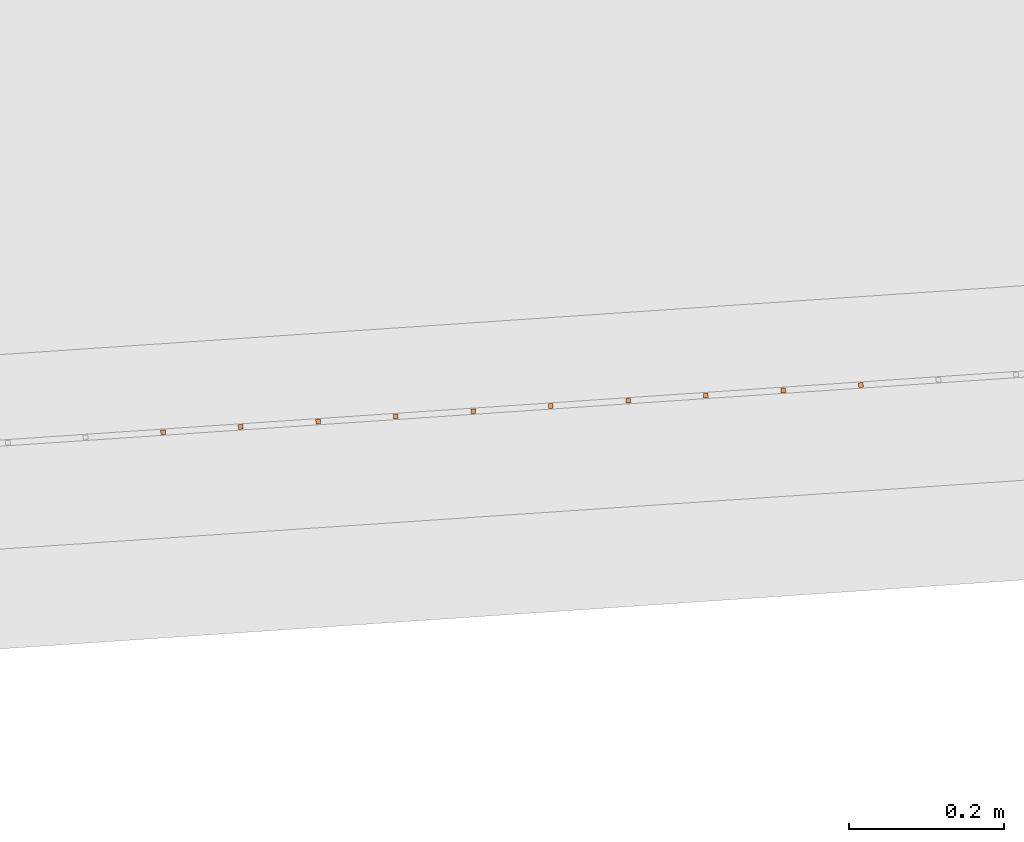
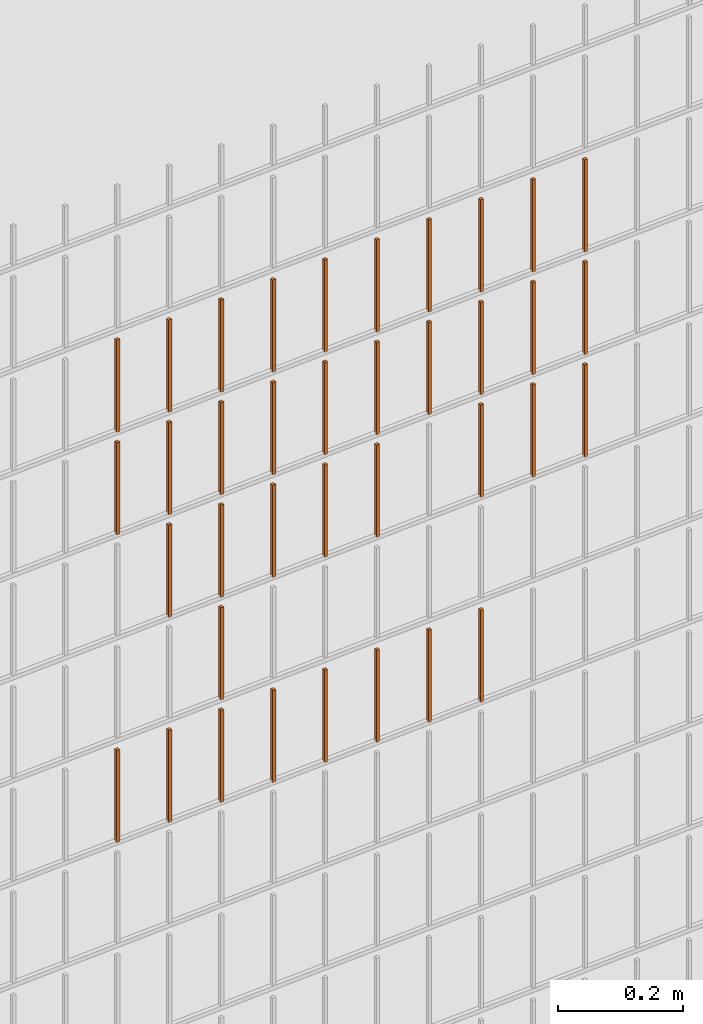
# One storey, part 149 of 1809: 37 proxies, 1 element without a shape of its own.
"""IFC2X3 building model written with IfcOpenShell, lengths in millimetres."""

import ifcopenshell
import ifcopenshell.guid

model = None  # the IFC model being written
_history = None  # IfcOwnerHistory: only IFC2X3 demands one
_inside = {}  # id of a spatial element -> (the spatial element, [elements in it])
_under = {}  # id of a project, library or spatial element -> (it, [spatial elements below it])
_declared = {}  # id of a project -> (the project, [libraries it declares])
_typed = {}  # id of a type object -> (the type object, [elements of that type])
_made_of = {}  # id of a material, layer set ... -> (it, [elements and type objects made of it])


def new_model(schema):
    """Start an empty IFC model of exactly this schema.

    Asked for "IFC4X3", IfcOpenShell would pick the latest addendum, in which some entities
    have other attributes; the version numbers below select the first issue.
    IFC2X3 requires an IfcOwnerHistory on every rooted entity: one is made here for all.
    """
    global model, _history
    if schema == "IFC4X3":
        model = ifcopenshell.file(schema_version=(4, 3, 0, 0))
    else:
        model = ifcopenshell.file(schema=schema)
    _inside.clear()
    _under.clear()
    _declared.clear()
    _typed.clear()
    _made_of.clear()
    _history = None
    if model.schema == "IFC2X3":
        org = make("IfcOrganization", Name="unknown")
        user = make(
            "IfcPersonAndOrganization",
            ThePerson=make("IfcPerson", FamilyName="unknown"),
            TheOrganization=org,
        )
        app = make(
            "IfcApplication",
            ApplicationDeveloper=org,
            Version="unknown",
            ApplicationFullName="unknown",
            ApplicationIdentifier="unknown",
        )
        _history = make(
            "IfcOwnerHistory",
            OwningUser=user,
            OwningApplication=app,
            ChangeAction="ADDED",
            CreationDate=0,
        )
    return model


def make(cls, **values):
    """One entity of the class cls with the attributes given. An attribute that is None is left unset."""
    return model.create_entity(
        cls, **{name: value for name, value in values.items() if value is not None}
    )


def entity(cls, *values):
    """Any entity or typed value of the class cls, its attributes in the order of the schema. None: left unset."""
    e = model.create_entity(cls)
    for i, value in enumerate(values):
        if value is not None:
            e[i] = value
    return e


def rooted(cls, **values):
    """An entity with a GlobalId (a new one), such as an element, a storey or a relation."""
    return make(cls, GlobalId=ifcopenshell.guid.new(), OwnerHistory=_history, **values)


def si_unit(unit_type, name, prefix=None):
    """IfcSIUnit, for example si_unit("LENGTHUNIT", "METRE", prefix="MILLI")."""
    return make("IfcSIUnit", UnitType=unit_type, Prefix=prefix, Name=name)


def converted_unit(unit_type, name, factor, base, dimensions=None, offset=None):
    """IfcConversionBasedUnit, such as the inch: factor (a typed value) times the base unit."""
    return make(
        "IfcConversionBasedUnit"
        if offset is None
        else "IfcConversionBasedUnitWithOffset",
        ConversionOffset=offset,
        Dimensions=None
        if dimensions is None
        else entity("IfcDimensionalExponents", *dimensions),
        UnitType=unit_type,
        Name=name,
        ConversionFactor=make(
            "IfcMeasureWithUnit", ValueComponent=factor, UnitComponent=base
        ),
    )


def derived_unit(unit_type, elements):
    """IfcDerivedUnit: a product of units, each with its exponent."""
    return make(
        "IfcDerivedUnit",
        Elements=[
            make("IfcDerivedUnitElement", Unit=unit, Exponent=power)
            for unit, power in elements
        ],
        UnitType=unit_type,
    )


def money_unit(currency):
    """IfcMonetaryUnit."""
    return make("IfcMonetaryUnit", Currency=currency)


def assignment(units):
    """IfcUnitAssignment: the units of a project."""
    return None if units is None else make("IfcUnitAssignment", Units=units)


def point(xyz):
    """IfcCartesianPoint."""
    return None if xyz is None else make("IfcCartesianPoint", Coordinates=xyz)


def direction(xyz):
    """IfcDirection."""
    return None if xyz is None else make("IfcDirection", DirectionRatios=xyz)


def frame(location, z_axis=None, x_axis=None):
    """IfcAxis2Placement3D, a coordinate frame: its origin and axes. An axis left out is left unset."""
    return make(
        "IfcAxis2Placement3D",
        Location=point(location),
        Axis=direction(z_axis),
        RefDirection=direction(x_axis),
    )


def origin_with_axes():
    """The frame at (0, 0, 0) with the z axis (0, 0, 1) and the x axis (1, 0, 0) written out."""
    return frame((0.0, 0.0, 0.0), z_axis=(0.0, 0.0, 1.0), x_axis=(1.0, 0.0, 0.0))


def place(relative_to, where):
    """IfcLocalPlacement: puts the frame where relative to a parent placement (None: the world)."""
    return make(
        "IfcLocalPlacement", PlacementRelTo=relative_to, RelativePlacement=where
    )


def context(
    kind, dimensions, precision=None, world=None, true_north=None, identifier=None
):
    """IfcGeometricRepresentationContext, for example the 3D "Model" context."""
    return make(
        "IfcGeometricRepresentationContext",
        ContextIdentifier=identifier,
        ContextType=kind,
        CoordinateSpaceDimension=dimensions,
        Precision=precision,
        WorldCoordinateSystem=world,
        TrueNorth=true_north,
    )


def subcontext(parent, identifier, kind, view, scale=None):
    """IfcGeometricRepresentationSubContext, for example "Body" below "Model"."""
    return make(
        "IfcGeometricRepresentationSubContext",
        ContextIdentifier=identifier,
        ContextType=kind,
        ParentContext=parent,
        TargetScale=scale,
        TargetView=view,
    )


def project(units=None, contexts=None):
    """IfcProject with its units and contexts."""
    return rooted(
        "IfcProject",
        Name="project",
        RepresentationContexts=contexts,
        UnitsInContext=assignment(units),
    )


def spatial(cls, under=None, at=None, **own):
    """A site, building, storey or space (cls), placed at a placement, below another one or the project."""
    s = rooted(cls, ObjectPlacement=at, **own)
    if under is not None:
        _under.setdefault(under.id(), (under, []))[1].append(s)
    return s


def faces_of(points, faces, orient=None, outer=None):
    """IfcFace entities. A face is a list of loops; a loop is a list of indices into points, from 0.

    orient and outer hold one flag for each loop. By default every Orientation is true, the
    first loop of a face is its IfcFaceOuterBound and the others are IfcFaceBound.
    """
    made = []
    for i, loops in enumerate(faces):
        bounds = []
        for j, loop in enumerate(loops):
            is_outer = j == 0 if outer is None else outer[i][j]
            bounds.append(
                make(
                    "IfcFaceOuterBound" if is_outer else "IfcFaceBound",
                    Bound=make("IfcPolyLoop", Polygon=[points[k] for k in loop]),
                    Orientation=True if orient is None else orient[i][j],
                )
            )
        made.append(make("IfcFace", Bounds=bounds))
    return made


def faceted_brep(points, faces, orient=None, outer=None, voids=None):
    """IfcFacetedBrep: a solid bounded by flat faces; with voids (closed shells), ...WithVoids."""
    shared = [point(p) for p in points]
    hull = make("IfcClosedShell", CfsFaces=faces_of(shared, faces, orient, outer))
    if voids is None:
        return make("IfcFacetedBrep", Outer=hull)
    return make(
        "IfcFacetedBrepWithVoids",
        Outer=hull,
        Voids=[
            make(cls, CfsFaces=faces_of(shared, fs, o, b)) for cls, fs, o, b in voids
        ],
    )


def shape(context_of_items, identifier, shape_type, items):
    """IfcShapeRepresentation: the items that make up one representation, for example the "Body"."""
    return make(
        "IfcShapeRepresentation",
        ContextOfItems=context_of_items,
        RepresentationIdentifier=identifier,
        RepresentationType=shape_type,
        Items=items,
    )


def source(mapping_origin, context_of_items, identifier, shape_type, items):
    """IfcRepresentationMap: a shape defined once, which mapped items show again and again."""
    return make(
        "IfcRepresentationMap",
        MappingOrigin=mapping_origin,
        MappedRepresentation=shape(context_of_items, identifier, shape_type, items),
    )


def transform(
    local_origin,
    x_axis=None,
    y_axis=None,
    z_axis=None,
    scale=None,
    scale2=None,
    scale3=None,
    uniform=True,
):
    """IfcCartesianTransformationOperator3D, or its non-uniform kind. x_axis, y_axis, z_axis: its Axis1, 2, 3."""
    if uniform:
        return make(
            "IfcCartesianTransformationOperator3D",
            Axis1=direction(x_axis),
            Axis2=direction(y_axis),
            LocalOrigin=point(local_origin),
            Scale=scale,
            Axis3=direction(z_axis),
        )
    return make(
        "IfcCartesianTransformationOperator3DnonUniform",
        Axis1=direction(x_axis),
        Axis2=direction(y_axis),
        LocalOrigin=point(local_origin),
        Scale=scale,
        Axis3=direction(z_axis),
        Scale2=scale2,
        Scale3=scale3,
    )


def mapped(mapping_source, mapping_target):
    """IfcMappedItem: shows the shape of a source again, moved by a transform."""
    return make(
        "IfcMappedItem", MappingSource=mapping_source, MappingTarget=mapping_target
    )


def material(Name=None, Category=None):
    """IfcMaterial."""
    return make("IfcMaterial", Name=Name, Category=Category)


def made_of(thing, what):
    """Note that an element or type object is made of a material, layer set ...; save() writes the relation."""
    if what is not None:
        _made_of.setdefault(what.id(), (what, []))[1].append(thing)
    return thing


def type_object(cls, material=None, **own):
    """A type object (cls), such as IfcWallType, which elements share."""
    return made_of(rooted(cls, **own), material)


def element(
    cls,
    number,
    at=None,
    inside=None,
    cuts=None,
    type_object=None,
    material=None,
    context=None,
    identifier="Body",
    shape_type=None,
    held_by="IfcProductDefinitionShape",
    body=None,
    shapes=None,
    **own,
):
    """One element of the class cls, such as IfcWall. Its Tag is "e" and its number.

    at: its placement. inside: the storey or other place that contains it. cuts: it is an
    opening in that element (IfcRelVoidsElement). A single representation is given by context,
    identifier, shape_type and body (its items); several are given by shapes. held_by: the class
    of the entity that holds the representations. save() writes the other relations.
    """
    e = rooted(cls, Tag="e%d" % number, ObjectPlacement=at, **own)
    if body is not None:
        shapes = [shape(context, identifier, shape_type, body)]
    if shapes is not None:
        e.Representation = make(held_by, Representations=shapes)
    if inside is not None:
        _inside.setdefault(inside.id(), (inside, []))[1].append(e)
    if cuts is not None:
        rooted(
            "IfcRelVoidsElement", RelatingBuildingElement=cuts, RelatedOpeningElement=e
        )
    if type_object is not None:
        _typed.setdefault(type_object.id(), (type_object, []))[1].append(e)
    return made_of(e, material)


def aggregate(whole, parts):
    """IfcRelAggregates: a whole, such as a stair, and the parts it consists of."""
    return rooted("IfcRelAggregates", RelatingObject=whole, RelatedObjects=parts)


def save(model, path):
    """Write the relations noted so far, then the file.

    IfcRelAggregates (storeys below a building ...), IfcRelContainedInSpatialStructure (elements
    in a storey), IfcRelDefinesByType, IfcRelAssociatesMaterial and IfcRelDeclares: one each for
    every whole, place, type object, material and project.
    """
    for whole, parts in _under.values():
        aggregate(whole, parts)
    for where, things in _inside.values():
        rooted(
            "IfcRelContainedInSpatialStructure",
            RelatedElements=things,
            RelatingStructure=where,
        )
    for kind, things in _typed.values():
        rooted("IfcRelDefinesByType", RelatedObjects=things, RelatingType=kind)
    for what, things in _made_of.values():
        rooted("IfcRelAssociatesMaterial", RelatedObjects=things, RelatingMaterial=what)
    for by, libraries in _declared.values():
        rooted("IfcRelDeclares", RelatingContext=by, RelatedDefinitions=libraries)
    model.write(path)


model = new_model("IFC2X3")

# Units and contexts
model_context = context("Model", 3, precision=0.01, world=origin_with_axes(), true_north=direction((0.0, 1.0)))
body_context = subcontext(model_context, "Body", "Model", "MODEL_VIEW")
ifc_project = project(units=[si_unit("LENGTHUNIT", "METRE", prefix="MILLI"), si_unit("AREAUNIT", "SQUARE_METRE"), si_unit("VOLUMEUNIT", "CUBIC_METRE"), converted_unit("PLANEANGLEUNIT", "DEGREE", entity("IfcPlaneAngleMeasure", 0.0174532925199), si_unit("PLANEANGLEUNIT", "RADIAN"), dimensions=[0, 0, 0, 0, 0, 0, 0]), si_unit("SOLIDANGLEUNIT", "STERADIAN"), money_unit("EUR"), converted_unit("TIMEUNIT", "Year", entity("IfcTimeMeasure", 31556926.0), si_unit("TIMEUNIT", "SECOND"), dimensions=[0, 0, 1, 0, 0, 0, 0]), si_unit("MASSUNIT", "GRAM", prefix="KILO"), si_unit("THERMODYNAMICTEMPERATUREUNIT", "DEGREE_CELSIUS"), si_unit("LUMINOUSINTENSITYUNIT", "LUMEN"), si_unit("ENERGYUNIT", "JOULE", prefix="MEGA"), derived_unit("THERMALCONDUCTANCEUNIT", [(si_unit("POWERUNIT", "WATT"), 1), (si_unit("LENGTHUNIT", "METRE"), -1), (si_unit("THERMODYNAMICTEMPERATUREUNIT", "KELVIN"), -1)]), derived_unit("SPECIFICHEATCAPACITYUNIT", [(si_unit("ENERGYUNIT", "JOULE"), 1), (si_unit("MASSUNIT", "GRAM", prefix="KILO"), -1), (si_unit("THERMODYNAMICTEMPERATUREUNIT", "KELVIN"), -1)]), derived_unit("MASSDENSITYUNIT", [(si_unit("MASSUNIT", "GRAM", prefix="KILO"), 1), (si_unit("VOLUMEUNIT", "CUBIC_METRE"), -1)])], contexts=[model_context])

# Site, building, storey
site_placement = place(None, origin_with_axes())
site = spatial("IfcSite", under=ifc_project, at=site_placement, Name="Politse- ja Piirivalveameti ning Päästeameti ühishoone", CompositionType="ELEMENT")
building_placement = place(site_placement, origin_with_axes())
building = spatial("IfcBuilding", under=site, at=building_placement, Name="Politse- ja Piirivalveameti ning Päästeameti ühishoone", CompositionType="ELEMENT")
storey_placement = place(building_placement, origin_with_axes())
storey = spatial("IfcBuildingStorey", under=building, at=storey_placement, Name="Esimene korrus", CompositionType="ELEMENT", Elevation=0.0)

# Proxies
building_element_proxy_type_1 = type_object("IfcBuildingElementProxyType", Name="Railing Type", PredefinedType="NOTDEFINED")
proxy_1_placement = place(storey_placement, frame((89252.001212, -29183.4766571, 203.661247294), z_axis=(0.0, 0.0, 1.0), x_axis=(1.0, 0.0, 0.0)))
proxy_1 = element("IfcBuildingElementProxy", 1, at=proxy_1_placement, inside=storey, type_object=building_element_proxy_type_1, Name="PIIRDEAED")
ifc_material = material(Name="ET-03_Raud")
building_element_proxy_type_2 = type_object("IfcBuildingElementProxyType", Name="IfcBuildingElementProxy", PredefinedType="NOTDEFINED")
shared_shape_1 = source(origin_with_axes(), body_context, "Body", "Brep", [
    faceted_brep([(3.0, 3.0, -0.000752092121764), (-3.0, 3.0, -0.000752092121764), (-3.0, 3.0, 179.99926046), (3.0, 3.0, 179.99926046), (3.0, -3.0, 0.000752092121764), (-3.0, -3.0, 0.000752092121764), (-3.0, -3.0, 180.000764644), (3.0, -3.0, 180.000764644)], [[[0, 1, 2, 3]], [[0, 4, 5, 1]], [[1, 5, 6, 2]], [[3, 2, 6, 7]], [[4, 0, 3, 7]], [[5, 4, 7, 6]]]),
])
proxy_2_placement = place(proxy_1_placement, frame((-83536.3378757, -22940.3391303, 806.244324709), z_axis=(0.0, 0.0, 1.0), x_axis=(1.0, 0.0, 0.0)))
proxy_2 = element("IfcBuildingElementProxy", 2, at=proxy_2_placement, type_object=building_element_proxy_type_2, material=ifc_material, Name="BALUSTER - 001", context=body_context, shape_type="MappedRepresentation", body=[
    mapped(shared_shape_1, transform((0.0, 0.0, 0.0), x_axis=(-0.0673926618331, 0.997726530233, 0.0), y_axis=(-0.997726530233, -0.0673926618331, 0.0), z_axis=(0.0, 0.0, 1.0))),
])
shared_shape_2 = source(origin_with_axes(), body_context, "Body", "Brep", [
    faceted_brep([(3.0, 3.0, -0.000752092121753), (-3.0, 3.0, -0.000752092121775), (-3.0, 3.0, 179.99926046), (3.0, 3.0, 179.99926046), (3.0, -3.0, 0.000752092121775), (-3.0, -3.0, 0.000752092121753), (-3.0, -3.0, 180.000764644), (3.0, -3.0, 180.000764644)], [[[0, 1, 2, 3]], [[0, 4, 5, 1]], [[1, 5, 6, 2]], [[3, 2, 6, 7]], [[4, 0, 3, 7]], [[5, 4, 7, 6]]]),
])
proxy_3_placement = place(proxy_1_placement, frame((-83436.5652227, -22933.5998642, 1206.26939445), z_axis=(0.0, 0.0, 1.0), x_axis=(1.0, 0.0, 0.0)))
proxy_3 = element("IfcBuildingElementProxy", 3, at=proxy_3_placement, type_object=building_element_proxy_type_2, material=ifc_material, Name="BALUSTER - 001", context=body_context, shape_type="MappedRepresentation", body=[
    mapped(shared_shape_2, transform((0.0, 0.0, 0.0), x_axis=(-0.0673926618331, 0.997726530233, 0.0), y_axis=(-0.997726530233, -0.0673926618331, 0.0), z_axis=(0.0, 0.0, 1.0))),
])
shared_shape_3 = source(origin_with_axes(), body_context, "Body", "Brep", [
    faceted_brep([(3.0, 3.0, -0.000752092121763), (-3.0, 3.0, -0.000752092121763), (-3.0, 3.0, 179.99926046), (3.0, 3.0, 179.99926046), (3.0, -3.0, 0.000752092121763), (-3.0, -3.0, 0.000752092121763), (-3.0, -3.0, 180.000764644), (3.0, -3.0, 180.000764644)], [[[0, 1, 2, 3]], [[0, 4, 5, 1]], [[1, 5, 6, 2]], [[3, 2, 6, 7]], [[4, 0, 3, 7]], [[5, 4, 7, 6]]]),
])
proxy_4_placement = place(proxy_1_placement, frame((-83636.1105287, -22947.0783965, 1206.21925497), z_axis=(0.0, 0.0, 1.0), x_axis=(1.0, 0.0, 0.0)))
proxy_4 = element("IfcBuildingElementProxy", 4, at=proxy_4_placement, type_object=building_element_proxy_type_2, material=ifc_material, Name="BALUSTER - 001", context=body_context, shape_type="MappedRepresentation", body=[
    mapped(shared_shape_3, transform((0.0, 0.0, 0.0), x_axis=(-0.0673926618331, 0.997726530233, 0.0), y_axis=(-0.997726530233, -0.0673926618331, 0.0), z_axis=(0.0, 0.0, 1.0))),
])
shared_shape_4 = source(origin_with_axes(), body_context, "Body", "Brep", [
    faceted_brep([(3.0, 3.0, -0.000752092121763), (-3.0, 3.0, -0.000752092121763), (-3.0, 3.0, 179.99926046), (3.0, 3.0, 179.99926046), (3.0, -3.0, 0.000752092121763), (-3.0, -3.0, 0.000752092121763), (-3.0, -3.0, 180.000764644), (3.0, -3.0, 180.000764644)], [[[0, 1, 2, 3]], [[0, 4, 5, 1]], [[1, 5, 6, 2]], [[3, 2, 6, 7]], [[4, 0, 3, 7]], [[5, 4, 7, 6]]]),
])
proxy_5_placement = place(proxy_1_placement, frame((-84134.9737938, -22980.7747274, 806.093906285), z_axis=(0.0, 0.0, 1.0), x_axis=(1.0, 0.0, 0.0)))
proxy_5 = element("IfcBuildingElementProxy", 5, at=proxy_5_placement, type_object=building_element_proxy_type_2, material=ifc_material, Name="BALUSTER - 001", context=body_context, shape_type="MappedRepresentation", body=[
    mapped(shared_shape_4, transform((0.0, 0.0, 0.0), x_axis=(-0.0673926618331, 0.997726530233, 0.0), y_axis=(-0.997726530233, -0.0673926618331, 0.0), z_axis=(0.0, 0.0, 1.0))),
])
shared_shape_5 = source(origin_with_axes(), body_context, "Body", "Brep", [
    faceted_brep([(3.0, 3.0, -0.000752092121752), (-3.0, 3.0, -0.000752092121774), (-3.0, 3.0, 179.99926046), (3.0, 3.0, 179.99926046), (3.0, -3.0, 0.000752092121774), (-3.0, -3.0, 0.000752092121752), (-3.0, -3.0, 180.000764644), (3.0, -3.0, 180.000764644)], [[[0, 1, 2, 3]], [[0, 4, 5, 1]], [[1, 5, 6, 2]], [[3, 2, 6, 7]], [[4, 0, 3, 7]], [[5, 4, 7, 6]]]),
])
proxy_6_placement = place(proxy_1_placement, frame((-83436.5652227, -22933.5998642, 806.269394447), z_axis=(0.0, 0.0, 1.0), x_axis=(1.0, 0.0, 0.0)))
proxy_6 = element("IfcBuildingElementProxy", 6, at=proxy_6_placement, type_object=building_element_proxy_type_2, material=ifc_material, Name="BALUSTER - 001", context=body_context, shape_type="MappedRepresentation", body=[
    mapped(shared_shape_5, transform((0.0, 0.0, 0.0), x_axis=(-0.0673926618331, 0.997726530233, 0.0), y_axis=(-0.997726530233, -0.0673926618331, 0.0), z_axis=(0.0, 0.0, 1.0))),
])
shared_shape_6 = source(origin_with_axes(), body_context, "Body", "Brep", [
    faceted_brep([(3.0, 3.0, -0.000752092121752), (-3.0, 3.0, -0.000752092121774), (-3.0, 3.0, 179.99926046), (3.0, 3.0, 179.99926046), (3.0, -3.0, 0.000752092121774), (-3.0, -3.0, 0.000752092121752), (-3.0, -3.0, 180.000764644), (3.0, -3.0, 180.000764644)], [[[0, 1, 2, 3]], [[0, 4, 5, 1]], [[1, 5, 6, 2]], [[3, 2, 6, 7]], [[4, 0, 3, 7]], [[5, 4, 7, 6]]]),
])
proxy_7_placement = place(proxy_1_placement, frame((-83636.1105287, -22947.0783965, 806.219254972), z_axis=(0.0, 0.0, 1.0), x_axis=(1.0, 0.0, 0.0)))
proxy_7 = element("IfcBuildingElementProxy", 7, at=proxy_7_placement, type_object=building_element_proxy_type_2, material=ifc_material, Name="BALUSTER - 001", context=body_context, shape_type="MappedRepresentation", body=[
    mapped(shared_shape_6, transform((0.0, 0.0, 0.0), x_axis=(-0.0673926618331, 0.997726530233, 0.0), y_axis=(-0.997726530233, -0.0673926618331, 0.0), z_axis=(0.0, 0.0, 1.0))),
])
proxy_8_placement = place(proxy_1_placement, frame((-83935.4284878, -22967.2961951, 806.14404576), z_axis=(0.0, 0.0, 1.0), x_axis=(1.0, 0.0, 0.0)))
proxy_8 = element("IfcBuildingElementProxy", 8, at=proxy_8_placement, type_object=building_element_proxy_type_2, material=ifc_material, Name="BALUSTER - 001", context=body_context, shape_type="MappedRepresentation", body=[
    mapped(shared_shape_6, transform((0.0, 0.0, 0.0), x_axis=(-0.0673926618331, 0.997726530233, 0.0), y_axis=(-0.997726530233, -0.0673926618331, 0.0), z_axis=(0.0, 0.0, 1.0))),
])
shared_shape_7 = source(origin_with_axes(), body_context, "Body", "Brep", [
    faceted_brep([(3.0, 3.0, -0.000752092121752), (-3.0, 3.0, -0.000752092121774), (-3.0, 3.0, 179.99926046), (3.0, 3.0, 179.99926046), (3.0, -3.0, 0.000752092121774), (-3.0, -3.0, 0.000752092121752), (-3.0, -3.0, 180.000764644), (3.0, -3.0, 180.000764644)], [[[0, 1, 2, 3]], [[0, 4, 5, 1]], [[1, 5, 6, 2]], [[3, 2, 6, 7]], [[4, 0, 3, 7]], [[5, 4, 7, 6]]]),
])
proxy_9_placement = place(proxy_1_placement, frame((-84035.2011408, -22974.0354613, 806.118976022), z_axis=(0.0, 0.0, 1.0), x_axis=(1.0, 0.0, 0.0)))
proxy_9 = element("IfcBuildingElementProxy", 9, at=proxy_9_placement, type_object=building_element_proxy_type_2, material=ifc_material, Name="BALUSTER - 001", context=body_context, shape_type="MappedRepresentation", body=[
    mapped(shared_shape_7, transform((0.0, 0.0, 0.0), x_axis=(-0.0673926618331, 0.997726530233, 0.0), y_axis=(-0.997726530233, -0.0673926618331, 0.0), z_axis=(0.0, 0.0, 1.0))),
])
proxy_10_placement = place(proxy_1_placement, frame((-83935.4284878, -22967.2961951, 1206.14404576), z_axis=(0.0, 0.0, 1.0), x_axis=(1.0, 0.0, 0.0)))
proxy_10 = element("IfcBuildingElementProxy", 10, at=proxy_10_placement, type_object=building_element_proxy_type_2, material=ifc_material, Name="BALUSTER - 001", context=body_context, shape_type="MappedRepresentation", body=[
    mapped(shared_shape_7, transform((0.0, 0.0, 0.0), x_axis=(-0.0673926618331, 0.997726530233, 0.0), y_axis=(-0.997726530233, -0.0673926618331, 0.0), z_axis=(0.0, 0.0, 1.0))),
])
shared_shape_8 = source(origin_with_axes(), body_context, "Body", "Brep", [
    faceted_brep([(3.0, 3.0, -0.000752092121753), (-3.0, 3.0, -0.000752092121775), (-3.0, 3.0, 179.99926046), (3.0, 3.0, 179.99926046), (3.0, -3.0, 0.000752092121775), (-3.0, -3.0, 0.000752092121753), (-3.0, -3.0, 180.000764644), (3.0, -3.0, 180.000764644)], [[[0, 1, 2, 3]], [[0, 4, 5, 1]], [[1, 5, 6, 2]], [[3, 2, 6, 7]], [[4, 0, 3, 7]], [[5, 4, 7, 6]]]),
])
proxy_11_placement = place(proxy_1_placement, frame((-83436.5652227, -22933.5998642, 1406.26939445), z_axis=(0.0, 0.0, 1.0), x_axis=(1.0, 0.0, 0.0)))
proxy_11 = element("IfcBuildingElementProxy", 11, at=proxy_11_placement, type_object=building_element_proxy_type_2, material=ifc_material, Name="BALUSTER - 001", context=body_context, shape_type="MappedRepresentation", body=[
    mapped(shared_shape_8, transform((0.0, 0.0, 0.0), x_axis=(-0.0673926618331, 0.997726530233, 0.0), y_axis=(-0.997726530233, -0.0673926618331, 0.0), z_axis=(0.0, 0.0, 1.0))),
])
proxy_12_placement = place(proxy_1_placement, frame((-83436.5652227, -22933.5998642, 1606.26939445), z_axis=(0.0, 0.0, 1.0), x_axis=(1.0, 0.0, 0.0)))
proxy_12 = element("IfcBuildingElementProxy", 12, at=proxy_12_placement, type_object=building_element_proxy_type_2, material=ifc_material, Name="BALUSTER - 001", context=body_context, shape_type="MappedRepresentation", body=[
    mapped(shared_shape_8, transform((0.0, 0.0, 0.0), x_axis=(-0.0673926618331, 0.997726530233, 0.0), y_axis=(-0.997726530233, -0.0673926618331, 0.0), z_axis=(0.0, 0.0, 1.0))),
])
shared_shape_9 = source(origin_with_axes(), body_context, "Body", "Brep", [
    faceted_brep([(3.0, 3.0, -0.000752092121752), (-3.0, 3.0, -0.000752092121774), (-3.0, 3.0, 179.99926046), (3.0, 3.0, 179.99926046), (3.0, -3.0, 0.000752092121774), (-3.0, -3.0, 0.000752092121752), (-3.0, -3.0, 180.000764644), (3.0, -3.0, 180.000764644)], [[[0, 1, 2, 3]], [[0, 4, 5, 1]], [[1, 5, 6, 2]], [[3, 2, 6, 7]], [[4, 0, 3, 7]], [[5, 4, 7, 6]]]),
])
proxy_13_placement = place(proxy_1_placement, frame((-83935.4284878, -22967.2961951, 1406.14404576), z_axis=(0.0, 0.0, 1.0), x_axis=(1.0, 0.0, 0.0)))
proxy_13 = element("IfcBuildingElementProxy", 13, at=proxy_13_placement, type_object=building_element_proxy_type_2, material=ifc_material, Name="BALUSTER - 001", context=body_context, shape_type="MappedRepresentation", body=[
    mapped(shared_shape_9, transform((0.0, 0.0, 0.0), x_axis=(-0.0673926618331, 0.997726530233, 0.0), y_axis=(-0.997726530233, -0.0673926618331, 0.0), z_axis=(0.0, 0.0, 1.0))),
])
proxy_14_placement = place(proxy_1_placement, frame((-83935.4284878, -22967.2961951, 1606.14404576), z_axis=(0.0, 0.0, 1.0), x_axis=(1.0, 0.0, 0.0)))
proxy_14 = element("IfcBuildingElementProxy", 14, at=proxy_14_placement, type_object=building_element_proxy_type_2, material=ifc_material, Name="BALUSTER - 001", context=body_context, shape_type="MappedRepresentation", body=[
    mapped(shared_shape_9, transform((0.0, 0.0, 0.0), x_axis=(-0.0673926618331, 0.997726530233, 0.0), y_axis=(-0.997726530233, -0.0673926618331, 0.0), z_axis=(0.0, 0.0, 1.0))),
])
shared_shape_10 = source(origin_with_axes(), body_context, "Body", "Brep", [
    faceted_brep([(3.0, 3.0, -0.000752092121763), (-3.0, 3.0, -0.000752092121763), (-3.0, 3.0, 179.99926046), (3.0, 3.0, 179.99926046), (3.0, -3.0, 0.000752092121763), (-3.0, -3.0, 0.000752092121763), (-3.0, -3.0, 180.000764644), (3.0, -3.0, 180.000764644)], [[[0, 1, 2, 3]], [[0, 4, 5, 1]], [[1, 5, 6, 2]], [[3, 2, 6, 7]], [[4, 0, 3, 7]], [[5, 4, 7, 6]]]),
])
proxy_15_placement = place(proxy_1_placement, frame((-83735.8831817, -22953.8176627, 1206.19418523), z_axis=(0.0, 0.0, 1.0), x_axis=(1.0, 0.0, 0.0)))
proxy_15 = element("IfcBuildingElementProxy", 15, at=proxy_15_placement, type_object=building_element_proxy_type_2, material=ifc_material, Name="BALUSTER - 001", context=body_context, shape_type="MappedRepresentation", body=[
    mapped(shared_shape_10, transform((0.0, 0.0, 0.0), x_axis=(-0.0673926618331, 0.997726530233, 0.0), y_axis=(-0.997726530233, -0.0673926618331, 0.0), z_axis=(0.0, 0.0, 1.0))),
])
shared_shape_11 = source(origin_with_axes(), body_context, "Body", "Brep", [
    faceted_brep([(3.0, 3.0, -0.000752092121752), (-3.0, 3.0, -0.000752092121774), (-3.0, 3.0, 179.99926046), (3.0, 3.0, 179.99926046), (3.0, -3.0, 0.000752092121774), (-3.0, -3.0, 0.000752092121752), (-3.0, -3.0, 180.000764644), (3.0, -3.0, 180.000764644)], [[[0, 1, 2, 3]], [[0, 4, 5, 1]], [[1, 5, 6, 2]], [[3, 2, 6, 7]], [[4, 0, 3, 7]], [[5, 4, 7, 6]]]),
])
proxy_16_placement = place(proxy_1_placement, frame((-83735.8831817, -22953.8176627, 806.194185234), z_axis=(0.0, 0.0, 1.0), x_axis=(1.0, 0.0, 0.0)))
proxy_16 = element("IfcBuildingElementProxy", 16, at=proxy_16_placement, type_object=building_element_proxy_type_2, material=ifc_material, Name="BALUSTER - 001", context=body_context, shape_type="MappedRepresentation", body=[
    mapped(shared_shape_11, transform((0.0, 0.0, 0.0), x_axis=(-0.0673926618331, 0.997726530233, 0.0), y_axis=(-0.997726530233, -0.0673926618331, 0.0), z_axis=(0.0, 0.0, 1.0))),
])
proxy_17_placement = place(proxy_1_placement, frame((-83835.6558348, -22960.5569289, 806.169115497), z_axis=(0.0, 0.0, 1.0), x_axis=(1.0, 0.0, 0.0)))
proxy_17 = element("IfcBuildingElementProxy", 17, at=proxy_17_placement, type_object=building_element_proxy_type_2, material=ifc_material, Name="BALUSTER - 001", context=body_context, shape_type="MappedRepresentation", body=[
    mapped(shared_shape_11, transform((0.0, 0.0, 0.0), x_axis=(-0.0673926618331, 0.997726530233, 0.0), y_axis=(-0.997726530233, -0.0673926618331, 0.0), z_axis=(0.0, 0.0, 1.0))),
])
proxy_18_placement = place(proxy_1_placement, frame((-83835.6558348, -22960.5569289, 1206.1691155), z_axis=(0.0, 0.0, 1.0), x_axis=(1.0, 0.0, 0.0)))
proxy_18 = element("IfcBuildingElementProxy", 18, at=proxy_18_placement, type_object=building_element_proxy_type_2, material=ifc_material, Name="BALUSTER - 001", context=body_context, shape_type="MappedRepresentation", body=[
    mapped(shared_shape_11, transform((0.0, 0.0, 0.0), x_axis=(-0.0673926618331, 0.997726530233, 0.0), y_axis=(-0.997726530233, -0.0673926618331, 0.0), z_axis=(0.0, 0.0, 1.0))),
])
shared_shape_12 = source(origin_with_axes(), body_context, "Body", "Brep", [
    faceted_brep([(3.0, 3.0, -0.000752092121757), (-3.0, 3.0, -0.000752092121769), (-3.00000000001, 3.0, 179.99926046), (2.99999999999, 3.0, 179.99926046), (3.0, -3.0, 0.000752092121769), (-3.0, -3.0, 0.000752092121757), (-3.00000000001, -3.0, 180.000764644), (2.99999999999, -3.0, 180.000764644)], [[[0, 1, 2, 3]], [[0, 4, 5, 1]], [[1, 5, 6, 2]], [[3, 2, 6, 7]], [[4, 0, 3, 7]], [[5, 4, 7, 6]]]),
])
proxy_19_placement = place(proxy_1_placement, frame((-83935.4284878, -22967.2961951, 1006.14404576), z_axis=(0.0, 0.0, 1.0), x_axis=(1.0, 0.0, 0.0)))
proxy_19 = element("IfcBuildingElementProxy", 19, at=proxy_19_placement, type_object=building_element_proxy_type_2, material=ifc_material, Name="BALUSTER - 001", context=body_context, shape_type="MappedRepresentation", body=[
    mapped(shared_shape_12, transform((0.0, 0.0, 0.0), x_axis=(-0.0673926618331, 0.997726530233, 0.0), y_axis=(-0.997726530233, -0.0673926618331, 0.0), z_axis=(0.0, 0.0, 1.0))),
])
shared_shape_13 = source(origin_with_axes(), body_context, "Body", "Brep", [
    faceted_brep([(3.0, 3.0, -0.000752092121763), (-3.0, 3.0, -0.000752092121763), (-3.0, 3.0, 179.99926046), (3.0, 3.0, 179.99926046), (3.0, -3.0, 0.000752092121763), (-3.0, -3.0, 0.000752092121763), (-3.0, -3.0, 180.000764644), (3.0, -3.0, 180.000764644)], [[[0, 1, 2, 3]], [[0, 4, 5, 1]], [[1, 5, 6, 2]], [[3, 2, 6, 7]], [[4, 0, 3, 7]], [[5, 4, 7, 6]]]),
])
proxy_20_placement = place(proxy_1_placement, frame((-83237.0199166, -22920.1213318, 1206.31953392), z_axis=(0.0, 0.0, 1.0), x_axis=(1.0, 0.0, 0.0)))
proxy_20 = element("IfcBuildingElementProxy", 20, at=proxy_20_placement, type_object=building_element_proxy_type_2, material=ifc_material, Name="BALUSTER - 001", context=body_context, shape_type="MappedRepresentation", body=[
    mapped(shared_shape_13, transform((0.0, 0.0, 0.0), x_axis=(-0.0673926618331, 0.997726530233, 0.0), y_axis=(-0.997726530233, -0.0673926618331, 0.0), z_axis=(0.0, 0.0, 1.0))),
])
proxy_21_placement = place(proxy_1_placement, frame((-84035.2011408, -22974.0354613, 1206.11897602), z_axis=(0.0, 0.0, 1.0), x_axis=(1.0, 0.0, 0.0)))
proxy_21 = element("IfcBuildingElementProxy", 21, at=proxy_21_placement, type_object=building_element_proxy_type_2, material=ifc_material, Name="BALUSTER - 001", context=body_context, shape_type="MappedRepresentation", body=[
    mapped(shared_shape_13, transform((0.0, 0.0, 0.0), x_axis=(-0.0673926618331, 0.997726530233, 0.0), y_axis=(-0.997726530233, -0.0673926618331, 0.0), z_axis=(0.0, 0.0, 1.0))),
])
shared_shape_14 = source(origin_with_axes(), body_context, "Body", "Brep", [
    faceted_brep([(3.0, 3.0, -0.000752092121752), (-3.0, 3.0, -0.000752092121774), (-3.0, 3.0, 179.99926046), (3.0, 3.0, 179.99926046), (3.0, -3.0, 0.000752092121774), (-3.0, -3.0, 0.000752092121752), (-3.0, -3.0, 180.000764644), (3.0, -3.0, 180.000764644)], [[[0, 1, 2, 3]], [[0, 4, 5, 1]], [[1, 5, 6, 2]], [[3, 2, 6, 7]], [[4, 0, 3, 7]], [[5, 4, 7, 6]]]),
])
proxy_22_placement = place(proxy_1_placement, frame((-83336.7925696, -22926.860598, 1206.29446418), z_axis=(0.0, 0.0, 1.0), x_axis=(1.0, 0.0, 0.0)))
proxy_22 = element("IfcBuildingElementProxy", 22, at=proxy_22_placement, type_object=building_element_proxy_type_2, material=ifc_material, Name="BALUSTER - 001", context=body_context, shape_type="MappedRepresentation", body=[
    mapped(shared_shape_14, transform((0.0, 0.0, 0.0), x_axis=(-0.0673926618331, 0.997726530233, 0.0), y_axis=(-0.997726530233, -0.0673926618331, 0.0), z_axis=(0.0, 0.0, 1.0))),
])
shared_shape_15 = source(origin_with_axes(), body_context, "Body", "Brep", [
    faceted_brep([(3.0, 3.0, -0.000752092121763), (-3.0, 3.0, -0.000752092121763), (-3.0, 3.0, 179.99926046), (3.0, 3.0, 179.99926046), (3.0, -3.0, 0.000752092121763), (-3.0, -3.0, 0.000752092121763), (-3.0, -3.0, 180.000764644), (3.0, -3.0, 180.000764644)], [[[0, 1, 2, 3]], [[0, 4, 5, 1]], [[1, 5, 6, 2]], [[3, 2, 6, 7]], [[4, 0, 3, 7]], [[5, 4, 7, 6]]]),
])
proxy_23_placement = place(proxy_1_placement, frame((-83237.0199166, -22920.1213318, 1406.31953392), z_axis=(0.0, 0.0, 1.0), x_axis=(1.0, 0.0, 0.0)))
proxy_23 = element("IfcBuildingElementProxy", 23, at=proxy_23_placement, type_object=building_element_proxy_type_2, material=ifc_material, Name="BALUSTER - 001", context=body_context, shape_type="MappedRepresentation", body=[
    mapped(shared_shape_15, transform((0.0, 0.0, 0.0), x_axis=(-0.0673926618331, 0.997726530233, 0.0), y_axis=(-0.997726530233, -0.0673926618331, 0.0), z_axis=(0.0, 0.0, 1.0))),
])
proxy_24_placement = place(proxy_1_placement, frame((-83237.0199166, -22920.1213318, 1606.31953392), z_axis=(0.0, 0.0, 1.0), x_axis=(1.0, 0.0, 0.0)))
proxy_24 = element("IfcBuildingElementProxy", 24, at=proxy_24_placement, type_object=building_element_proxy_type_2, material=ifc_material, Name="BALUSTER - 001", context=body_context, shape_type="MappedRepresentation", body=[
    mapped(shared_shape_15, transform((0.0, 0.0, 0.0), x_axis=(-0.0673926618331, 0.997726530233, 0.0), y_axis=(-0.997726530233, -0.0673926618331, 0.0), z_axis=(0.0, 0.0, 1.0))),
])
shared_shape_16 = source(origin_with_axes(), body_context, "Body", "Brep", [
    faceted_brep([(3.0, 3.0, -0.000752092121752), (-3.0, 3.0, -0.000752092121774), (-3.0, 3.0, 179.99926046), (3.0, 3.0, 179.99926046), (3.0, -3.0, 0.000752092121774), (-3.0, -3.0, 0.000752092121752), (-3.0, -3.0, 180.000764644), (3.0, -3.0, 180.000764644)], [[[0, 1, 2, 3]], [[0, 4, 5, 1]], [[1, 5, 6, 2]], [[3, 2, 6, 7]], [[4, 0, 3, 7]], [[5, 4, 7, 6]]]),
])
proxy_25_placement = place(proxy_1_placement, frame((-83336.7925696, -22926.860598, 1406.29446418), z_axis=(0.0, 0.0, 1.0), x_axis=(1.0, 0.0, 0.0)))
proxy_25 = element("IfcBuildingElementProxy", 25, at=proxy_25_placement, type_object=building_element_proxy_type_2, material=ifc_material, Name="BALUSTER - 001", context=body_context, shape_type="MappedRepresentation", body=[
    mapped(shared_shape_16, transform((0.0, 0.0, 0.0), x_axis=(-0.0673926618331, 0.997726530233, 0.0), y_axis=(-0.997726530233, -0.0673926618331, 0.0), z_axis=(0.0, 0.0, 1.0))),
])
proxy_26_placement = place(proxy_1_placement, frame((-83336.7925696, -22926.860598, 1606.29446418), z_axis=(0.0, 0.0, 1.0), x_axis=(1.0, 0.0, 0.0)))
proxy_26 = element("IfcBuildingElementProxy", 26, at=proxy_26_placement, type_object=building_element_proxy_type_2, material=ifc_material, Name="BALUSTER - 001", context=body_context, shape_type="MappedRepresentation", body=[
    mapped(shared_shape_16, transform((0.0, 0.0, 0.0), x_axis=(-0.0673926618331, 0.997726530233, 0.0), y_axis=(-0.997726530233, -0.0673926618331, 0.0), z_axis=(0.0, 0.0, 1.0))),
])
shared_shape_17 = source(origin_with_axes(), body_context, "Body", "Brep", [
    faceted_brep([(3.0, 3.0, -0.000752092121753), (-3.0, 3.0, -0.000752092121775), (-3.0, 3.0, 179.99926046), (3.0, 3.0, 179.99926046), (3.0, -3.0, 0.000752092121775), (-3.0, -3.0, 0.000752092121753), (-3.0, -3.0, 180.000764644), (3.0, -3.0, 180.000764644)], [[[0, 1, 2, 3]], [[0, 4, 5, 1]], [[1, 5, 6, 2]], [[3, 2, 6, 7]], [[4, 0, 3, 7]], [[5, 4, 7, 6]]]),
])
proxy_27_placement = place(proxy_1_placement, frame((-83536.3378757, -22940.3391303, 1406.24432471), z_axis=(0.0, 0.0, 1.0), x_axis=(1.0, 0.0, 0.0)))
proxy_27 = element("IfcBuildingElementProxy", 27, at=proxy_27_placement, type_object=building_element_proxy_type_2, material=ifc_material, Name="BALUSTER - 001", context=body_context, shape_type="MappedRepresentation", body=[
    mapped(shared_shape_17, transform((0.0, 0.0, 0.0), x_axis=(-0.0673926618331, 0.997726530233, 0.0), y_axis=(-0.997726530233, -0.0673926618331, 0.0), z_axis=(0.0, 0.0, 1.0))),
])
proxy_28_placement = place(proxy_1_placement, frame((-83536.3378757, -22940.3391303, 1606.24432471), z_axis=(0.0, 0.0, 1.0), x_axis=(1.0, 0.0, 0.0)))
proxy_28 = element("IfcBuildingElementProxy", 28, at=proxy_28_placement, type_object=building_element_proxy_type_2, material=ifc_material, Name="BALUSTER - 001", context=body_context, shape_type="MappedRepresentation", body=[
    mapped(shared_shape_17, transform((0.0, 0.0, 0.0), x_axis=(-0.0673926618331, 0.997726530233, 0.0), y_axis=(-0.997726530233, -0.0673926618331, 0.0), z_axis=(0.0, 0.0, 1.0))),
])
shared_shape_18 = source(origin_with_axes(), body_context, "Body", "Brep", [
    faceted_brep([(3.0, 3.0, -0.000752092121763), (-3.0, 3.0, -0.000752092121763), (-3.0, 3.0, 179.99926046), (3.0, 3.0, 179.99926046), (3.0, -3.0, 0.000752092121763), (-3.0, -3.0, 0.000752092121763), (-3.0, -3.0, 180.000764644), (3.0, -3.0, 180.000764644)], [[[0, 1, 2, 3]], [[0, 4, 5, 1]], [[1, 5, 6, 2]], [[3, 2, 6, 7]], [[4, 0, 3, 7]], [[5, 4, 7, 6]]]),
])
proxy_29_placement = place(proxy_1_placement, frame((-83636.1105287, -22947.0783965, 1406.21925497), z_axis=(0.0, 0.0, 1.0), x_axis=(1.0, 0.0, 0.0)))
proxy_29 = element("IfcBuildingElementProxy", 29, at=proxy_29_placement, type_object=building_element_proxy_type_2, material=ifc_material, Name="BALUSTER - 001", context=body_context, shape_type="MappedRepresentation", body=[
    mapped(shared_shape_18, transform((0.0, 0.0, 0.0), x_axis=(-0.0673926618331, 0.997726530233, 0.0), y_axis=(-0.997726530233, -0.0673926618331, 0.0), z_axis=(0.0, 0.0, 1.0))),
])
proxy_30_placement = place(proxy_1_placement, frame((-83636.1105287, -22947.0783965, 1606.21925497), z_axis=(0.0, 0.0, 1.0), x_axis=(1.0, 0.0, 0.0)))
proxy_30 = element("IfcBuildingElementProxy", 30, at=proxy_30_placement, type_object=building_element_proxy_type_2, material=ifc_material, Name="BALUSTER - 001", context=body_context, shape_type="MappedRepresentation", body=[
    mapped(shared_shape_18, transform((0.0, 0.0, 0.0), x_axis=(-0.0673926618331, 0.997726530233, 0.0), y_axis=(-0.997726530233, -0.0673926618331, 0.0), z_axis=(0.0, 0.0, 1.0))),
])
shared_shape_19 = source(origin_with_axes(), body_context, "Body", "Brep", [
    faceted_brep([(3.0, 3.0, -0.000752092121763), (-3.0, 3.0, -0.000752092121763), (-3.0, 3.0, 179.99926046), (3.0, 3.0, 179.99926046), (3.0, -3.0, 0.000752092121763), (-3.0, -3.0, 0.000752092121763), (-3.0, -3.0, 180.000764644), (3.0, -3.0, 180.000764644)], [[[0, 1, 2, 3]], [[0, 4, 5, 1]], [[1, 5, 6, 2]], [[3, 2, 6, 7]], [[4, 0, 3, 7]], [[5, 4, 7, 6]]]),
])
proxy_31_placement = place(proxy_1_placement, frame((-83735.8831817, -22953.8176627, 1406.19418523), z_axis=(0.0, 0.0, 1.0), x_axis=(1.0, 0.0, 0.0)))
proxy_31 = element("IfcBuildingElementProxy", 31, at=proxy_31_placement, type_object=building_element_proxy_type_2, material=ifc_material, Name="BALUSTER - 001", context=body_context, shape_type="MappedRepresentation", body=[
    mapped(shared_shape_19, transform((0.0, 0.0, 0.0), x_axis=(-0.0673926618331, 0.997726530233, 0.0), y_axis=(-0.997726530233, -0.0673926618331, 0.0), z_axis=(0.0, 0.0, 1.0))),
])
proxy_32_placement = place(proxy_1_placement, frame((-83735.8831817, -22953.8176627, 1606.19418523), z_axis=(0.0, 0.0, 1.0), x_axis=(1.0, 0.0, 0.0)))
proxy_32 = element("IfcBuildingElementProxy", 32, at=proxy_32_placement, type_object=building_element_proxy_type_2, material=ifc_material, Name="BALUSTER - 001", context=body_context, shape_type="MappedRepresentation", body=[
    mapped(shared_shape_19, transform((0.0, 0.0, 0.0), x_axis=(-0.0673926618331, 0.997726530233, 0.0), y_axis=(-0.997726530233, -0.0673926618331, 0.0), z_axis=(0.0, 0.0, 1.0))),
])
shared_shape_20 = source(origin_with_axes(), body_context, "Body", "Brep", [
    faceted_brep([(3.0, 3.0, -0.000752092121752), (-3.0, 3.0, -0.000752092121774), (-3.0, 3.0, 179.99926046), (3.0, 3.0, 179.99926046), (3.0, -3.0, 0.000752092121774), (-3.0, -3.0, 0.000752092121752), (-3.0, -3.0, 180.000764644), (3.0, -3.0, 180.000764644)], [[[0, 1, 2, 3]], [[0, 4, 5, 1]], [[1, 5, 6, 2]], [[3, 2, 6, 7]], [[4, 0, 3, 7]], [[5, 4, 7, 6]]]),
])
proxy_33_placement = place(proxy_1_placement, frame((-83835.6558348, -22960.5569289, 1406.1691155), z_axis=(0.0, 0.0, 1.0), x_axis=(1.0, 0.0, 0.0)))
proxy_33 = element("IfcBuildingElementProxy", 33, at=proxy_33_placement, type_object=building_element_proxy_type_2, material=ifc_material, Name="BALUSTER - 001", context=body_context, shape_type="MappedRepresentation", body=[
    mapped(shared_shape_20, transform((0.0, 0.0, 0.0), x_axis=(-0.0673926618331, 0.997726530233, 0.0), y_axis=(-0.997726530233, -0.0673926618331, 0.0), z_axis=(0.0, 0.0, 1.0))),
])
proxy_34_placement = place(proxy_1_placement, frame((-83835.6558348, -22960.5569289, 1606.1691155), z_axis=(0.0, 0.0, 1.0), x_axis=(1.0, 0.0, 0.0)))
proxy_34 = element("IfcBuildingElementProxy", 34, at=proxy_34_placement, type_object=building_element_proxy_type_2, material=ifc_material, Name="BALUSTER - 001", context=body_context, shape_type="MappedRepresentation", body=[
    mapped(shared_shape_20, transform((0.0, 0.0, 0.0), x_axis=(-0.0673926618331, 0.997726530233, 0.0), y_axis=(-0.997726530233, -0.0673926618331, 0.0), z_axis=(0.0, 0.0, 1.0))),
])
shared_shape_21 = source(origin_with_axes(), body_context, "Body", "Brep", [
    faceted_brep([(3.0, 3.0, -0.000752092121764), (-3.0, 3.0, -0.000752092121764), (-3.0, 3.0, 179.99926046), (3.0, 3.0, 179.99926046), (3.0, -3.0, 0.000752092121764), (-3.0, -3.0, 0.000752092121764), (-3.0, -3.0, 180.000764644), (3.0, -3.0, 180.000764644)], [[[0, 1, 2, 3]], [[0, 4, 5, 1]], [[1, 5, 6, 2]], [[3, 2, 6, 7]], [[4, 0, 3, 7]], [[5, 4, 7, 6]]]),
])
proxy_35_placement = place(proxy_1_placement, frame((-84035.2011408, -22974.0354613, 1406.11897602), z_axis=(0.0, 0.0, 1.0), x_axis=(1.0, 0.0, 0.0)))
proxy_35 = element("IfcBuildingElementProxy", 35, at=proxy_35_placement, type_object=building_element_proxy_type_2, material=ifc_material, Name="BALUSTER - 001", context=body_context, shape_type="MappedRepresentation", body=[
    mapped(shared_shape_21, transform((0.0, 0.0, 0.0), x_axis=(-0.0673926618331, 0.997726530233, 0.0), y_axis=(-0.997726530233, -0.0673926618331, 0.0), z_axis=(0.0, 0.0, 1.0))),
])
proxy_36_placement = place(proxy_1_placement, frame((-84035.2011408, -22974.0354613, 1606.11897602), z_axis=(0.0, 0.0, 1.0), x_axis=(1.0, 0.0, 0.0)))
proxy_36 = element("IfcBuildingElementProxy", 36, at=proxy_36_placement, type_object=building_element_proxy_type_2, material=ifc_material, Name="BALUSTER - 001", context=body_context, shape_type="MappedRepresentation", body=[
    mapped(shared_shape_21, transform((0.0, 0.0, 0.0), x_axis=(-0.0673926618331, 0.997726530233, 0.0), y_axis=(-0.997726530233, -0.0673926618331, 0.0), z_axis=(0.0, 0.0, 1.0))),
])
shared_shape_22 = source(origin_with_axes(), body_context, "Body", "Brep", [
    faceted_brep([(3.0, 3.0, -0.000752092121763), (-3.0, 3.0, -0.000752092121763), (-3.0, 3.0, 179.99926046), (3.0, 3.0, 179.99926046), (3.0, -3.0, 0.000752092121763), (-3.0, -3.0, 0.000752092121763), (-3.0, -3.0, 180.000764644), (3.0, -3.0, 180.000764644)], [[[0, 1, 2, 3]], [[0, 4, 5, 1]], [[1, 5, 6, 2]], [[3, 2, 6, 7]], [[4, 0, 3, 7]], [[5, 4, 7, 6]]]),
])
proxy_37_placement = place(proxy_1_placement, frame((-84134.9737938, -22980.7747274, 1406.09390628), z_axis=(0.0, 0.0, 1.0), x_axis=(1.0, 0.0, 0.0)))
proxy_37 = element("IfcBuildingElementProxy", 37, at=proxy_37_placement, type_object=building_element_proxy_type_2, material=ifc_material, Name="BALUSTER - 001", context=body_context, shape_type="MappedRepresentation", body=[
    mapped(shared_shape_22, transform((0.0, 0.0, 0.0), x_axis=(-0.0673926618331, 0.997726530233, 0.0), y_axis=(-0.997726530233, -0.0673926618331, 0.0), z_axis=(0.0, 0.0, 1.0))),
])
proxy_38_placement = place(proxy_1_placement, frame((-84134.9737938, -22980.7747274, 1606.09390628), z_axis=(0.0, 0.0, 1.0), x_axis=(1.0, 0.0, 0.0)))
proxy_38 = element("IfcBuildingElementProxy", 38, at=proxy_38_placement, type_object=building_element_proxy_type_2, material=ifc_material, Name="BALUSTER - 001", context=body_context, shape_type="MappedRepresentation", body=[
    mapped(shared_shape_22, transform((0.0, 0.0, 0.0), x_axis=(-0.0673926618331, 0.997726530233, 0.0), y_axis=(-0.997726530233, -0.0673926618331, 0.0), z_axis=(0.0, 0.0, 1.0))),
])
aggregate(proxy_1, [proxy_6, proxy_2, proxy_7, proxy_16, proxy_17, proxy_8, proxy_9, proxy_5, proxy_19, proxy_20, proxy_22, proxy_3, proxy_4, proxy_15, proxy_18, proxy_10, proxy_21, proxy_23, proxy_25, proxy_11, proxy_27, proxy_29, proxy_31, proxy_33, proxy_13, proxy_35, proxy_37, proxy_24, proxy_26, proxy_12, proxy_28, proxy_30, proxy_32, proxy_34, proxy_14, proxy_36, proxy_38])

save(model, "model.ifc")
